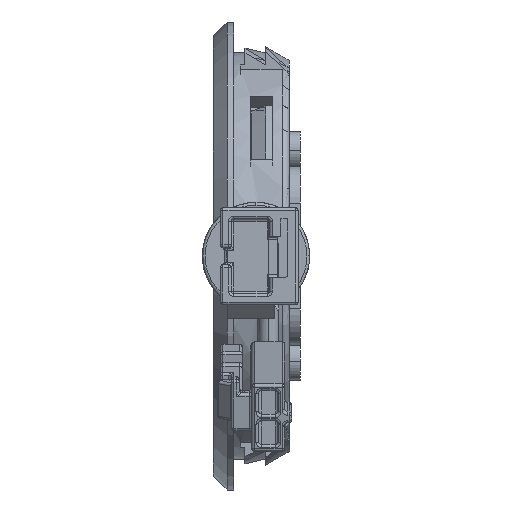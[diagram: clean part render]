
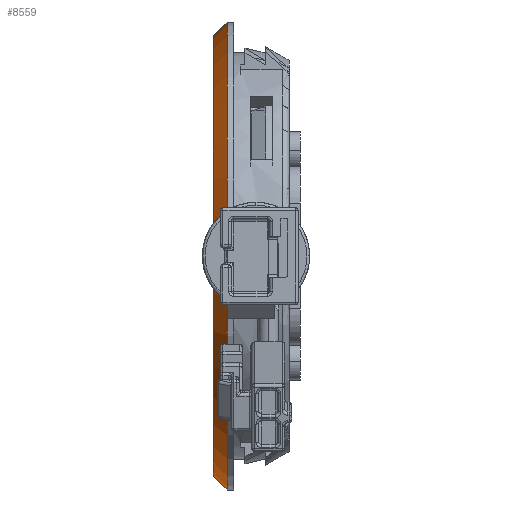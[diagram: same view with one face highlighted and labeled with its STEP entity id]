
A CAD part, left-side view. The second image highlights one B-rep face of the part: STEP entity #8559.
In plain terms, the highlighted conical face has half-angle 45 degrees and reference radius 16 mm.
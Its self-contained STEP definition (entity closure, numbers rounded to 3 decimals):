
#1142 = EDGE_CURVE ( 'NONE', #17810, #15125, #13851, .T. ) ;
#2044 = CARTESIAN_POINT ( 'NONE',  ( 0., 0., -16. ) ) ;
#2708 = VERTEX_POINT ( 'NONE', #2044 ) ;
#4794 = CARTESIAN_POINT ( 'NONE',  ( 0., 0., -16. ) ) ;
#5962 = VERTEX_POINT ( 'NONE', #14355 ) ;
#6496 = AXIS2_PLACEMENT_3D ( 'NONE', #7980, #8108, #12001 ) ;
#6824 = ORIENTED_EDGE ( 'NONE', *, *, #11197, .T. ) ;
#7013 = DIRECTION ( 'NONE',  ( 0., 0., 1. ) ) ;
#7104 = VECTOR ( 'NONE', #15972, 1000. ) ;
#7249 = CARTESIAN_POINT ( 'NONE',  ( 0., -1., 0. ) ) ;
#7706 = EDGE_CURVE ( 'NONE', #2708, #5962, #11776, .T. ) ;
#7980 = CARTESIAN_POINT ( 'NONE',  ( 0., 0., 0. ) ) ;
#8108 = DIRECTION ( 'NONE',  ( 0., -1., 0. ) ) ;
#8559 = ADVANCED_FACE ( 'NONE', ( #13700 ), #13501, .T. ) ;
#8925 = DIRECTION ( 'NONE',  ( 0., 1., 0. ) ) ;
#9866 = EDGE_LOOP ( 'NONE', ( #21834, #21897, #6824, #19665 ) ) ;
#9987 = EDGE_CURVE ( 'NONE', #5962, #15125, #21715, .T. ) ;
#10902 = CARTESIAN_POINT ( 'NONE',  ( 0., -1., 17. ) ) ;
#11197 = EDGE_CURVE ( 'NONE', #2708, #17810, #14043, .T. ) ;
#11387 = AXIS2_PLACEMENT_3D ( 'NONE', #12684, #8925, #17920 ) ;
#11776 = CIRCLE ( 'NONE', #11387, 16. ) ;
#12001 = DIRECTION ( 'NONE',  ( 0., 0., -1. ) ) ;
#12684 = CARTESIAN_POINT ( 'NONE',  ( 0., 0., 0. ) ) ;
#12833 = CARTESIAN_POINT ( 'NONE',  ( 0., -1., -17. ) ) ;
#13501 = CONICAL_SURFACE ( 'NONE', #6496, 16., 0.785 ) ;
#13700 = FACE_OUTER_BOUND ( 'NONE', #9866, .T. ) ;
#13851 = CIRCLE ( 'NONE', #20059, 17. ) ;
#14043 = LINE ( 'NONE', #4794, #7104 ) ;
#14355 = CARTESIAN_POINT ( 'NONE',  ( 0., 0., 16. ) ) ;
#15125 = VERTEX_POINT ( 'NONE', #10902 ) ;
#15728 = CARTESIAN_POINT ( 'NONE',  ( 0., 0., 16. ) ) ;
#15972 = DIRECTION ( 'NONE',  ( 0., -0.707, -0.707 ) ) ;
#17810 = VERTEX_POINT ( 'NONE', #12833 ) ;
#17920 = DIRECTION ( 'NONE',  ( 0., 0., 1. ) ) ;
#19665 = ORIENTED_EDGE ( 'NONE', *, *, #1142, .T. ) ;
#20059 = AXIS2_PLACEMENT_3D ( 'NONE', #7249, #20397, #7013 ) ;
#20397 = DIRECTION ( 'NONE',  ( 0., 1., 0. ) ) ;
#21715 = LINE ( 'NONE', #15728, #21858 ) ;
#21834 = ORIENTED_EDGE ( 'NONE', *, *, #9987, .F. ) ;
#21858 = VECTOR ( 'NONE', #23307, 1000. ) ;
#21897 = ORIENTED_EDGE ( 'NONE', *, *, #7706, .F. ) ;
#23307 = DIRECTION ( 'NONE',  ( 0., -0.707, 0.707 ) ) ;
